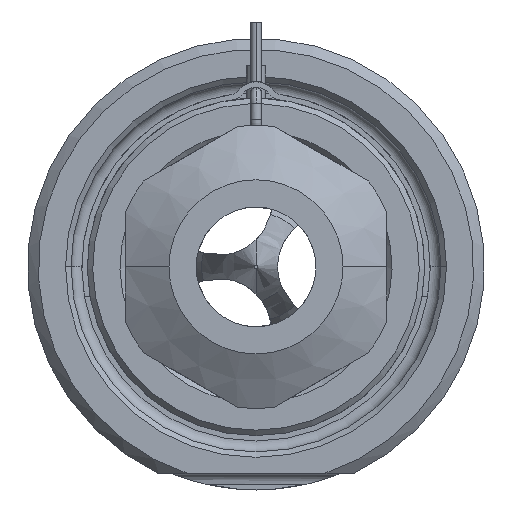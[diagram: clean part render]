
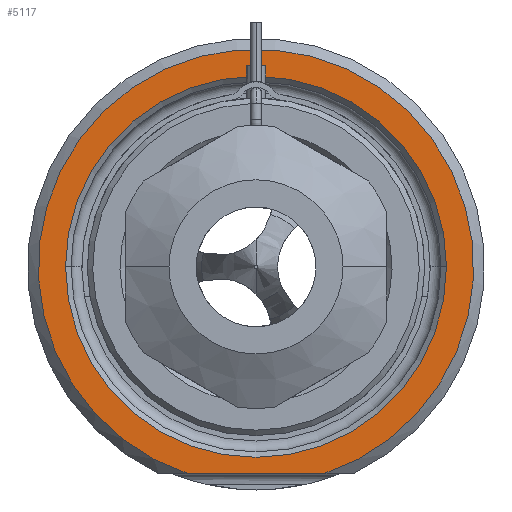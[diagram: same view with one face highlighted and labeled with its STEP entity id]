
A CAD part, front view. The second image highlights one B-rep face of the part: STEP entity #5117.
In plain terms, the highlighted planar face has unit normal (0, -1, 0).
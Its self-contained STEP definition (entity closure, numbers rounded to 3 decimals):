
#1303=CARTESIAN_POINT('',(0.,0.,0.));
#1304=DIRECTION('',(0.,-1.,0.));
#1305=DIRECTION('',(0.312,0.,-0.95));
#1306=AXIS2_PLACEMENT_3D('',#1303,#1304,#1305);
#1327=DIRECTION('',(1.,0.,0.));
#1328=VECTOR('',#1327,12.49);
#1329=CARTESIAN_POINT('',(-6.245,0.,-19.));
#1330=LINE('',#1329,#1328);
#1331=CARTESIAN_POINT('',(0.,0.,0.));
#1332=DIRECTION('',(0.,1.,0.));
#1333=DIRECTION('',(-1.,0.,0.));
#1334=AXIS2_PLACEMENT_3D('',#1331,#1332,#1333);
#1336=CARTESIAN_POINT('',(0.,0.,0.));
#1337=DIRECTION('',(0.,1.,0.));
#1338=DIRECTION('',(1.,0.,0.));
#1339=AXIS2_PLACEMENT_3D('',#1336,#1337,#1338);
#3376=CARTESIAN_POINT('',(-17.5,0.,0.));
#3377=CARTESIAN_POINT('',(17.5,0.,0.));
#3378=VERTEX_POINT('',#3376);
#3379=VERTEX_POINT('',#3377);
#3420=CARTESIAN_POINT('',(-6.245,0.,-19.));
#3421=CARTESIAN_POINT('',(6.245,0.,-19.));
#3422=VERTEX_POINT('',#3420);
#3423=VERTEX_POINT('',#3421);
#5102=CARTESIAN_POINT('',(0.,0.,0.));
#5103=DIRECTION('',(0.,-1.,0.));
#5104=DIRECTION('',(1.,0.,0.));
#5105=AXIS2_PLACEMENT_3D('',#5102,#5103,#5104);
#5106=PLANE('',#5105);
#5107=ORIENTED_EDGE('',*,*,#5034,.F.);
#5108=ORIENTED_EDGE('',*,*,#5094,.F.);
#5109=EDGE_LOOP('',(#5107,#5108));
#5110=FACE_OUTER_BOUND('',#5109,.F.);
#5112=ORIENTED_EDGE('',*,*,#5111,.F.);
#5114=ORIENTED_EDGE('',*,*,#5113,.F.);
#5115=EDGE_LOOP('',(#5112,#5114));
#5116=FACE_BOUND('',#5115,.F.);
#5117=ADVANCED_FACE('',(#5110,#5116),#5106,.T.);
#1307=CIRCLE('',#1306,20.);
#1335=CIRCLE('',#1334,17.5);
#1340=CIRCLE('',#1339,17.5);
#5034=EDGE_CURVE('',#3422,#3423,#1330,.T.);
#5094=EDGE_CURVE('',#3423,#3422,#1307,.T.);
#5111=EDGE_CURVE('',#3378,#3379,#1335,.T.);
#5113=EDGE_CURVE('',#3379,#3378,#1340,.T.);
